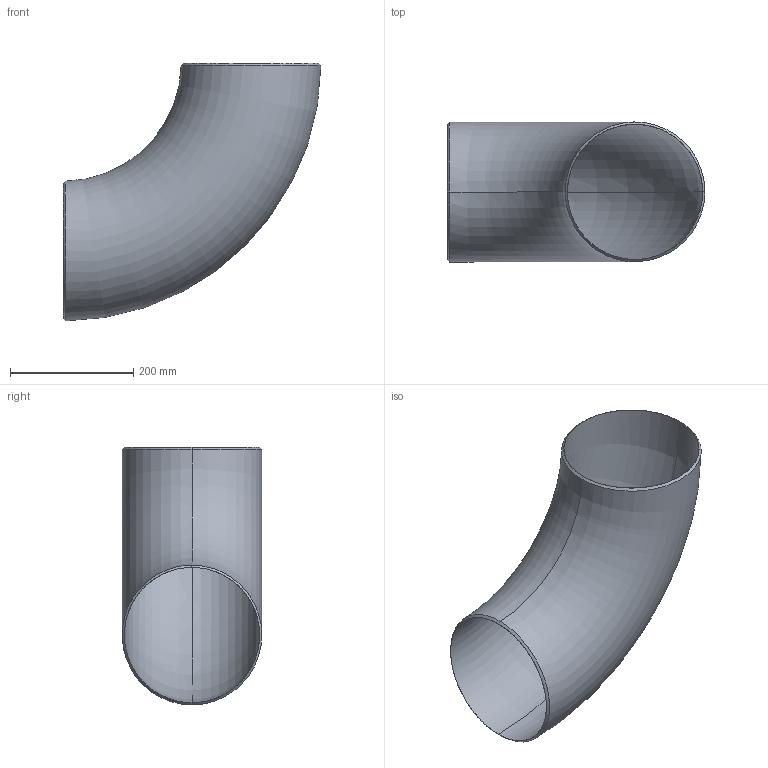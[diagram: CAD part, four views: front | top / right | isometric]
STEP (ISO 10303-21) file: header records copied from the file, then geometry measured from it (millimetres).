
FILE_DESCRIPTION (( 'STEP AP203' ), '1' );
FILE_NAME ('3D_R2651_8X10S_173421270.STEP', '2024-08-22T09:12:29', ( '' ), ( '' ), 'SwSTEP 2.0', 'SolidWorks 2024', '' );
FILE_SCHEMA (( 'CONFIG_CONTROL_DESIGN' ));
Length unit declared in the file: millimetre
Products named in the file (1): 3D_R2651_8X10S_173421270
Bounding box: 418.09 x 226.61 x 418.09 mm (x, y, z)
Volume: 1234633 mm3; surface area: 671662.8 mm2
Topology: 1 solids, 1 shells, 10 faces, 22 edges, 14 vertices
Faces by surface type: bspline 4, torus 4, plane 2
Entity records: 4429 total; most frequent: CARTESIAN_POINT 4157, ORIENTED_EDGE 44, DIRECTION 30, EDGE_CURVE 22, AXIS2_PLACEMENT_3D 15, VERTEX_POINT 14, B_SPLINE_CURVE_WITH_KNOTS 14, EDGE_LOOP 12
